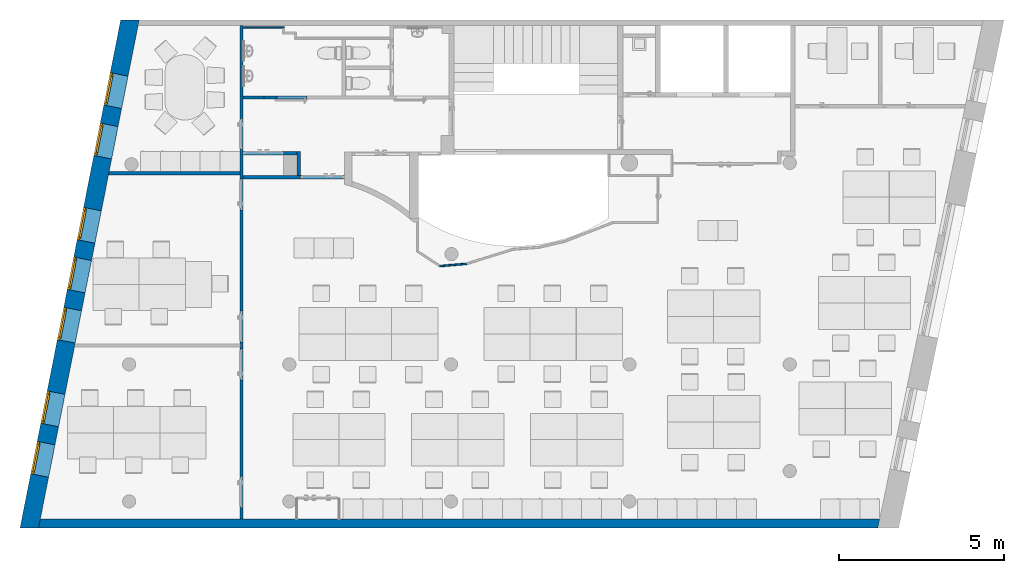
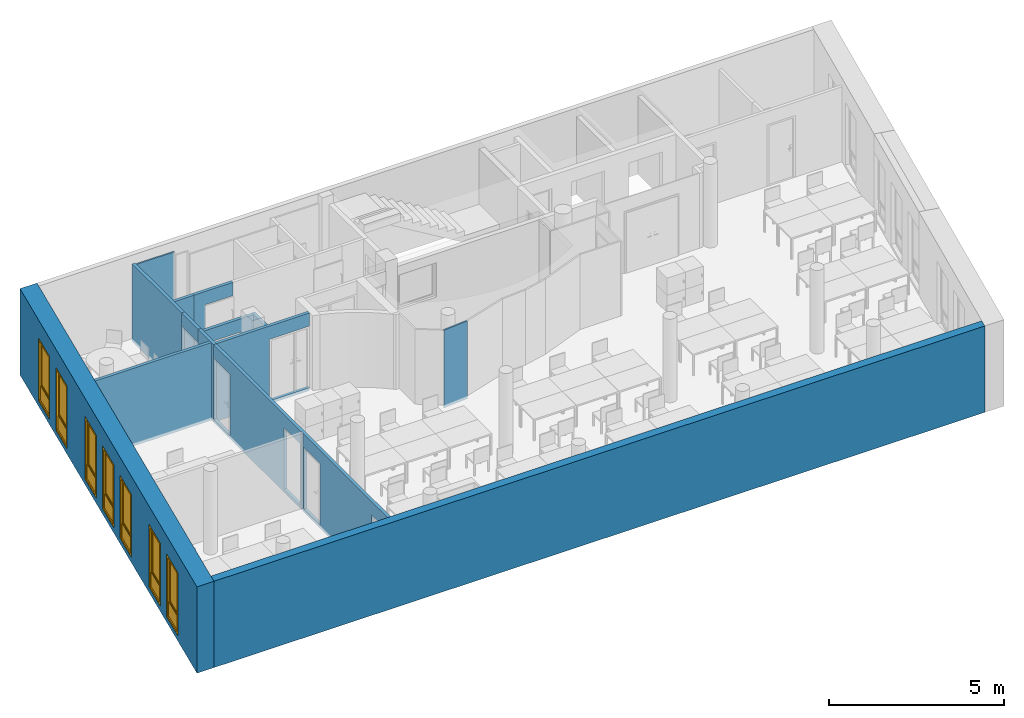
"""IFC4 building model written with IfcOpenShell, lengths in metres."""

from ifc_helpers import new_model, entity, si_unit, converted_unit, derived_unit, frame, frame_2d, origin, origin_with_axes, place, context, subcontext, project, spatial, polyline, rectangle, outline, extrude, closed_shell, open_shell, surface_model, source, transform, mapped, material, layer, layer_set, layer_usage, type_object, element, fill, save


model = new_model("IFC4")

# Units and contexts
model_context = context("Model", 3, precision=1e-05, world=origin())
body_context = subcontext(model_context, "Body", "Model", "MODEL_VIEW")
ifc_project = project(units=[si_unit("LENGTHUNIT", "METRE"), si_unit("AREAUNIT", "SQUARE_METRE"), si_unit("VOLUMEUNIT", "CUBIC_METRE"), si_unit("MASSUNIT", "GRAM", prefix="KILO"), converted_unit("PLANEANGLEUNIT", "DEGREE", entity("IfcPlaneAngleMeasure", 0.0174532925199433), si_unit("PLANEANGLEUNIT", "RADIAN"), dimensions=[0, 0, 0, 0, 0, 0, 0]), derived_unit("THERMALTRANSMITTANCEUNIT", [(si_unit("POWERUNIT", "WATT"), 1), (si_unit("THERMODYNAMICTEMPERATUREUNIT", "KELVIN"), -1), (si_unit("LENGTHUNIT", "METRE"), -2)]), derived_unit("VOLUMETRICFLOWRATEUNIT", [(si_unit("LENGTHUNIT", "METRE"), 3), (converted_unit("TIMEUNIT", "hour", entity("IfcTimeMeasure", 3600.0), si_unit("TIMEUNIT", "SECOND"), dimensions=[0, 0, 1, 0, 0, 0, 0]), -1), (si_unit("LENGTHUNIT", "METRE"), -1)])], contexts=[model_context])

# Building, storeys
building_placement = place(None, origin())
building = spatial("IfcBuilding", under=ifc_project, at=building_placement, Name="HABITATGE PLURIFAMILIAR", CompositionType="ELEMENT")
storey_1_placement = place(building_placement, frame((0.0, 0.0, 18.29)))
storey_1 = spatial("IfcBuildingStorey", under=building, at=storey_1_placement, Name="PLANTA CINQUENA", CompositionType="ELEMENT", Elevation=18.29)
storey_2_placement = place(storey_1_placement, frame((0.0, 0.0, 15.28)))
storey_2 = spatial("IfcBuildingStorey", under=storey_1, at=storey_2_placement, Name="NOU", CompositionType="PARTIAL")

# Wall
ifc_material_1 = material()
ifc_layer_1 = layer(ifc_material_1, 0.100000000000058)
ifc_layer_set_1 = layer_set([ifc_layer_1])
ifc_layer_usage_1 = layer_usage(ifc_layer_set_1, "AXIS2", "POSITIVE", 0.0)
wall_1_placement = place(storey_2_placement, frame((406.176984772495, 23.5194598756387, -15.38), z_axis=(0.0, 0.0, 1.0), x_axis=(0.0, 1.0, 0.0)))
element("IfcWall", 1, at=wall_1_placement, inside=storey_2, material=ifc_layer_usage_1, Name="Evans P5", context=body_context, shape_type="SweptSolid", body=[
    extrude(rectangle(XDim=0.724999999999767, YDim=0.100000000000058, at=frame_2d((0.362499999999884, 0.0500000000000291), x_axis=(1.0, 0.0))), origin_with_axes(), (0.0, 0.0, 1.0), 2.71),
])

# Wall, opening
ifc_material_2 = material()
ifc_layer_2 = layer(ifc_material_2, 0.1)
ifc_layer_set_2 = layer_set([ifc_layer_2])
ifc_layer_usage_2 = layer_usage(ifc_layer_set_2, "AXIS2", "POSITIVE", 0.0)
wall_2_placement = place(storey_2_placement, frame((404.436984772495, 23.4194598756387, -15.38)))
wall_2 = element("IfcWall", 2, at=wall_2_placement, inside=storey_2, material=ifc_layer_usage_2, Name="Evans P5", context=body_context, shape_type="SweptSolid", body=[
    extrude(rectangle(XDim=3.07, YDim=0.1, at=frame_2d((1.535, 0.05), x_axis=(1.0, 0.0))), origin_with_axes(), (0.0, 0.0, 1.0), 2.71),
])
opening_1_placement = place(wall_2_placement, frame((1.74, 0.0, 0.1), z_axis=(0.0, 1.0, 0.0), x_axis=(0.0, 0.0, 1.0)))
element("IfcOpeningElement", 3, at=opening_1_placement, cuts=wall_2, Name="Vano porta P5", ObjectType="Opening", context=body_context, shape_type="SweptSolid", body=[
    extrude(outline(polyline([(2.15, 1.33), (2.15, 0.0), (0.0, 0.0), (0.0, 1.33), (2.15, 1.33)])), origin_with_axes(), (0.0, 0.0, 1.0), 0.1),
])

ifc_material_3 = material()
ifc_layer_3 = layer(ifc_material_3, 0.1)
ifc_layer_set_3 = layer_set([ifc_layer_3])
ifc_layer_usage_3 = layer_usage(ifc_layer_set_3, "AXIS2", "POSITIVE", 0.0)
wall_3_placement = place(storey_2_placement, frame((406.076984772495, 24.2444598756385, -15.38), z_axis=(0.0, 0.0, 1.0), x_axis=(-1.0, 0.0, 0.0)))
wall_3 = element("IfcWall", 4, at=wall_3_placement, inside=storey_2, material=ifc_layer_usage_3, Name="Evans P5", context=body_context, shape_type="SweptSolid", body=[
    extrude(rectangle(XDim=1.63999999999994, YDim=0.1, at=frame_2d((0.819999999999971, 0.05), x_axis=(1.0, 0.0))), origin_with_axes(), (0.0, 0.0, 1.0), 2.71),
])
opening_2_placement = place(wall_3_placement, frame((1.63999999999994, 0.1, 0.1), z_axis=(0.0, -1.0, 0.0), x_axis=(0.0, 0.0, 1.0)))
element("IfcOpeningElement", 5, at=opening_2_placement, cuts=wall_3, Name="Vano porta P5", ObjectType="Opening", context=body_context, shape_type="SweptSolid", body=[
    extrude(outline(polyline([(2.15, 1.23), (2.15, 0.0), (0.0, 0.0), (0.0, 1.23), (2.15, 1.23)])), origin_with_axes(), (0.0, 0.0, 1.0), 0.1),
])

# Walls
ifc_material_4 = material()
ifc_layer_4 = layer(ifc_material_4, 0.05)
ifc_layer_set_4 = layer_set([ifc_layer_4])
ifc_layer_usage_4 = layer_usage(ifc_layer_set_4, "AXIS2", "POSITIVE", 0.0)
wall_4_placement = place(storey_2_placement, frame((404.436984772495, 27.9794598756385, -15.38)))
element("IfcWall", 6, at=wall_4_placement, inside=storey_2, material=ifc_layer_usage_4, Name="Evans P5", context=body_context, shape_type="SweptSolid", body=[
    extrude(rectangle(XDim=1.25, YDim=0.05, at=frame_2d((0.625, 0.025), x_axis=(1.0, 0.0))), origin_with_axes(), (0.0, 0.0, 1.0), 2.71),
])
ifc_material_5 = material()
ifc_layer_5 = layer(ifc_material_5, 0.1)
ifc_layer_set_5 = layer_set([ifc_layer_5])
ifc_layer_usage_5 = layer_usage(ifc_layer_set_5, "AXIS2", "POSITIVE", 0.0)
wall_5_placement = place(storey_2_placement, frame((404.436984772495, 25.8294598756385, -15.38)))
element("IfcWall", 7, at=wall_5_placement, inside=storey_2, material=ifc_layer_usage_5, Name="Evans P5", context=body_context, shape_type="SweptSolid", body=[
    extrude(rectangle(XDim=0.64, YDim=0.1, at=frame_2d((0.32, 0.05), x_axis=(1.0, 0.0))), origin_with_axes(), (0.0, 0.0, 1.0), 2.71),
])
ifc_material_6 = material()
ifc_layer_6 = layer(ifc_material_6, 0.0499999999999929)
ifc_layer_set_6 = layer_set([ifc_layer_6])
ifc_layer_usage_6 = layer_usage(ifc_layer_set_6, "AXIS2", "POSITIVE", 0.0)
wall_6_placement = place(storey_2_placement, frame((410.386395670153, 20.7494598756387, -15.38), z_axis=(0.0, 0.0, 1.0), x_axis=(0.996349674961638, 0.0853658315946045, 0.0)))
element("IfcWall", 8, at=wall_6_placement, inside=storey_2, material=ifc_layer_usage_6, Name="Mampara P5", context=body_context, shape_type="SweptSolid", body=[
    extrude(outline(polyline([(0.0, 0.0), (0.820006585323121, 0.0), (0.821109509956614, 0.000245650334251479), (0.821109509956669, 0.0499999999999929), (0.0175191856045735, 0.0500000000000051), (0.0, 0.0)])), origin_with_axes(), (0.0, 0.0, 1.0), 2.71),
])

# Wall, openings, doors
ifc_material_7 = material()
ifc_layer_7 = layer(ifc_material_7, 0.549990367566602)
ifc_layer_set_7 = layer_set([ifc_layer_7])
ifc_layer_usage_7 = layer_usage(ifc_layer_set_7, "AXIS2", "POSITIVE", 0.0)
wall_7_placement = place(storey_2_placement, frame((400.729735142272, 28.22824790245, -15.38), z_axis=(0.0, 0.0, 1.0), x_axis=(-0.194347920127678, -0.98093266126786, 0.0)))
wall_7 = element("IfcWall", 9, at=wall_7_placement, inside=storey_2, material=ifc_layer_usage_7, Name="Façana nord-oest P5", context=body_context, shape_type="SweptSolid", body=[
    extrude(outline(polyline([(-15.6867401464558, 0.0), (0.0, 0.0), (-0.108967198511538, 0.549990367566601), (-15.7957092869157, 0.550000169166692), (-15.6867401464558, 0.0)])), frame((15.6867401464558, 0.0, 0.0), z_axis=(0.0, 0.0, 1.0), x_axis=(1.0, 0.0, 0.0)), (0.0, 0.0, 1.0), 3.01),
])
opening_3_placement = place(wall_7_placement, frame((8.86645192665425, 0.0, 0.19), z_axis=(-1.32291446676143e-14, 1.0, 0.0), x_axis=(0.0, 0.0, 1.0)))
opening_3 = element("IfcOpeningElement", 10, at=opening_3_placement, cuts=wall_7, Name="Vano finestra P5", ObjectType="Opening", context=body_context, shape_type="SweptSolid", body=[
    extrude(outline(polyline([(2.19, 1.00000030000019), (2.19, 0.0), (0.0, 0.0), (0.0, 1.00000030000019), (2.19, 1.00000030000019)])), origin_with_axes(), (0.0, 0.0, 1.0), 0.549994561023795),
])
opening_4_placement = place(wall_7_placement, frame((7.31645192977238, 0.0, 0.19), z_axis=(3.96873641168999e-14, 1.0, 0.0), x_axis=(0.0, 0.0, 1.0)))
opening_4 = element("IfcOpeningElement", 11, at=opening_4_placement, cuts=wall_7, Name="Vano finestra P5", ObjectType="Opening", context=body_context, shape_type="SweptSolid", body=[
    extrude(outline(polyline([(2.19, 1.00000030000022), (2.19, 0.0), (0.0, 0.0), (0.0, 1.00000030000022), (2.19, 1.00000030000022)])), origin_with_axes(), (0.0, 0.0, 1.0), 0.549995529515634),
])
opening_5_placement = place(wall_7_placement, frame((11.4489828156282, 0.0, 0.19), z_axis=(-3.30729587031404e-15, 1.0, 0.0), x_axis=(0.0, 0.0, 1.0)))
opening_5 = element("IfcOpeningElement", 12, at=opening_5_placement, cuts=wall_7, Name="Vano finestra P5", ObjectType="Opening", context=body_context, shape_type="SweptSolid", body=[
    extrude(outline(polyline([(2.19, 1.0000003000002), (2.19, 0.0), (0.0, 0.0), (0.0, 1.0000003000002), (2.19, 1.0000003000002)])), origin_with_axes(), (0.0, 0.0, 1.0), 0.549992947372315),
])
opening_6_placement = place(wall_7_placement, frame((13.0068423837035, 0.0, 0.19), z_axis=(3.63803189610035e-14, 1.0, 0.0), x_axis=(0.0, 0.0, 1.0)))
opening_6 = element("IfcOpeningElement", 13, at=opening_6_placement, cuts=wall_7, Name="Vano finestra P5", ObjectType="Opening", context=body_context, shape_type="SweptSolid", body=[
    extrude(outline(polyline([(2.19, 1.0000003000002), (2.19, 0.0), (0.0, 0.0), (0.0, 1.0000003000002), (2.19, 1.0000003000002)])), origin_with_axes(), (0.0, 0.0, 1.0), 0.549991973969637),
])
opening_7_placement = place(wall_7_placement, frame((3.18033439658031, 0.0, 0.19), z_axis=(-2.48044860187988e-15, 1.0, 0.0), x_axis=(0.0, 0.0, 1.0)))
opening_7 = element("IfcOpeningElement", 14, at=opening_7_placement, cuts=wall_7, Name="Vano finestra P5", ObjectType="Opening", context=body_context, shape_type="SweptSolid", body=[
    extrude(outline(polyline([(2.19, 1.00000030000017), (2.19, 0.0), (0.0, 0.0), (0.0, 1.00000030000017), (2.19, 1.00000030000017)])), origin_with_axes(), (0.0, 0.0, 1.0), 0.549998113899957),
])
opening_8_placement = place(wall_7_placement, frame((1.62550322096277, 0.0, 0.19), z_axis=(2.60446643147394e-14, 1.0, 0.0), x_axis=(0.0, 0.0, 1.0)))
opening_8 = element("IfcOpeningElement", 15, at=opening_8_placement, cuts=wall_7, Name="Vano finestra P5", ObjectType="Opening", context=body_context, shape_type="SweptSolid", body=[
    extrude(outline(polyline([(2.19, 1.0000000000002), (2.19, 0.0), (0.0, 0.0), (0.0, 1.0000000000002), (2.19, 1.0000000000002)])), origin_with_axes(), (0.0, 0.0, 1.0), 0.549999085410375),
])
opening_9_placement = place(wall_7_placement, frame((5.78205524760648, 0.0, 0.19), z_axis=(-2.81118339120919e-14, 1.0, 0.0), x_axis=(0.0, 0.0, 1.0)))
opening_9 = element("IfcOpeningElement", 16, at=opening_9_placement, cuts=wall_7, Name="Vano finestra P5", ObjectType="Opening", context=body_context, shape_type="SweptSolid", body=[
    extrude(outline(polyline([(2.19, 1.00000030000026), (2.19, 0.0), (0.0, 0.0), (0.0, 1.00000030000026), (2.19, 1.00000030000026)])), origin_with_axes(), (0.0, 0.0, 1.0), 0.549996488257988),
])
door_type_1 = type_object("IfcDoorType", Name="Finestra P5", OperationType="NOTDEFINED", ParameterTakesPrecedence=False, PredefinedType="DOOR")
shared_shape = source(origin_with_axes(), body_context, "Body", "SurfaceModel", [
    surface_model("IfcShellBasedSurfaceModel", [(0.0, 0.0700000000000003, 2.19), (0.0, 0.07, 0.0), (0.07, 0.07, 0.0), (0.07, 0.0700000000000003, 2.19), (0.0, 0.0, 0.0), (0.0, 0.0, 2.19), (0.07, 0.0, 2.19), (0.07, 0.0, 0.0)], [closed_shell([[[0, 1, 2, 3]], [[4, 5, 6, 7]], [[1, 0, 5, 4]], [[2, 1, 4, 7]], [[3, 2, 7, 6]], [[0, 3, 6, 5]]], orient=[[False], [False], [False], [False], [False], [False]])]),
    surface_model("IfcShellBasedSurfaceModel", [(0.930000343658, 0.0700000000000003, 2.19), (0.930000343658, 0.07, 0.0), (1.000000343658, 0.07, 0.0), (1.000000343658, 0.0700000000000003, 2.19), (0.930000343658, 0.0, 0.0), (0.930000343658, 0.0, 2.19), (1.000000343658, 0.0, 2.19), (1.000000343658, 0.0, 0.0)], [closed_shell([[[0, 1, 2, 3]], [[4, 5, 6, 7]], [[1, 0, 5, 4]], [[2, 1, 4, 7]], [[3, 2, 7, 6]], [[0, 3, 6, 5]]], orient=[[False], [False], [False], [False], [False], [False]])]),
    surface_model("IfcShellBasedSurfaceModel", [(0.07, 0.07, 0.07), (0.07, 0.07, 0.0), (0.930000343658, 0.07, 0.0), (0.930000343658, 0.07, 0.07), (0.07, 0.0, 0.0), (0.07, 0.0, 0.07), (0.930000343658, 0.0, 0.07), (0.930000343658, 0.0, 0.0)], [closed_shell([[[0, 1, 2, 3]], [[4, 5, 6, 7]], [[1, 0, 5, 4]], [[2, 1, 4, 7]], [[3, 2, 7, 6]], [[0, 3, 6, 5]]], orient=[[False], [False], [False], [False], [False], [False]])]),
    surface_model("IfcShellBasedSurfaceModel", [(0.07, 0.0700000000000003, 2.19), (0.07, 0.0700000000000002, 2.12), (0.930000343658, 0.0700000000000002, 2.12), (0.930000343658, 0.0700000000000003, 2.19), (0.07, 0.0, 2.12), (0.07, 0.0, 2.19), (0.930000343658, 0.0, 2.19), (0.930000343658, 0.0, 2.12)], [closed_shell([[[0, 1, 2, 3]], [[4, 5, 6, 7]], [[1, 0, 5, 4]], [[2, 1, 4, 7]], [[3, 2, 7, 6]], [[0, 3, 6, 5]]], orient=[[False], [False], [False], [False], [False], [False]])]),
    surface_model("IfcShellBasedSurfaceModel", [(0.07, 0.035, 0.07), (0.930000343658, 0.035, 0.07), (0.930000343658, 0.0350000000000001, 0.57), (0.07, 0.0350000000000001, 0.57)], [open_shell([[[0, 1, 2, 3]]], orient=[[False]])]),
    surface_model("IfcShellBasedSurfaceModel", [(0.05, 0.1, 2.14), (0.05, 0.1, 0.551), (0.1, 0.1, 0.551), (0.1, 0.1, 2.14), (0.05, 0.0500000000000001, 0.551), (0.05, 0.0500000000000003, 2.14), (0.1, 0.0500000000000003, 2.14), (0.1, 0.0500000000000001, 0.551)], [closed_shell([[[0, 1, 2, 3]], [[4, 5, 6, 7]], [[1, 0, 5, 4]], [[2, 1, 4, 7]], [[3, 2, 7, 6]], [[0, 3, 6, 5]]], orient=[[False], [False], [False], [False], [False], [False]])]),
    surface_model("IfcShellBasedSurfaceModel", [(0.900000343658, 0.1, 2.14), (0.900000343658, 0.1, 0.551), (0.950000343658, 0.1, 0.551), (0.950000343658, 0.1, 2.14), (0.900000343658, 0.0500000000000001, 0.551), (0.900000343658, 0.0500000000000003, 2.14), (0.950000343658, 0.0500000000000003, 2.14), (0.950000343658, 0.0500000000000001, 0.551)], [closed_shell([[[0, 1, 2, 3]], [[4, 5, 6, 7]], [[1, 0, 5, 4]], [[2, 1, 4, 7]], [[3, 2, 7, 6]], [[0, 3, 6, 5]]], orient=[[False], [False], [False], [False], [False], [False]])]),
    surface_model("IfcShellBasedSurfaceModel", [(0.1, 0.1, 0.601), (0.1, 0.1, 0.551), (0.900000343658, 0.1, 0.551), (0.900000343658, 0.1, 0.601), (0.1, 0.0500000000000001, 0.551), (0.1, 0.0500000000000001, 0.601), (0.900000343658, 0.0500000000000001, 0.601), (0.900000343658, 0.0500000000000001, 0.551)], [closed_shell([[[0, 1, 2, 3]], [[4, 5, 6, 7]], [[1, 0, 5, 4]], [[2, 1, 4, 7]], [[3, 2, 7, 6]], [[0, 3, 6, 5]]], orient=[[False], [False], [False], [False], [False], [False]])]),
    surface_model("IfcShellBasedSurfaceModel", [(0.1, 0.1, 2.14), (0.1, 0.1, 2.09), (0.900000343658, 0.1, 2.09), (0.900000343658, 0.1, 2.14), (0.1, 0.0500000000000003, 2.09), (0.1, 0.0500000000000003, 2.14), (0.900000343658, 0.0500000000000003, 2.14), (0.900000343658, 0.0500000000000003, 2.09)], [closed_shell([[[0, 1, 2, 3]], [[4, 5, 6, 7]], [[1, 0, 5, 4]], [[2, 1, 4, 7]], [[3, 2, 7, 6]], [[0, 3, 6, 5]]], orient=[[False], [False], [False], [False], [False], [False]])]),
    surface_model("IfcShellBasedSurfaceModel", [(0.1, 0.0750000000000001, 0.601), (0.900000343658, 0.0750000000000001, 0.601), (0.900000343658, 0.0750000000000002, 2.09), (0.1, 0.0750000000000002, 2.09)], [open_shell([[[0, 1, 2, 3]]], orient=[[False]])]),
])
door_1_placement = place(opening_3_placement, frame((0.0, 0.0, 0.0), z_axis=(1.0, 0.0, 0.0), x_axis=(0.0, 1.00000000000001, -4.96269692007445e-14)))
door_1 = element("IfcDoor", 17, at=door_1_placement, inside=storey_2, type_object=door_type_1, Name="Finestra P5", OverallHeight=2.19, OverallWidth=1.0, context=body_context, shape_type="MappedRepresentation", body=[
    mapped(shared_shape, transform((0.0, 0.0, 0.0), x_axis=(1.0, 0.0, 0.0), y_axis=(0.0, 1.0, 0.0), z_axis=(0.0, 0.0, 1.0), scale=1.00000000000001)),
])
fill(opening_3, door_1)
door_type_2 = type_object("IfcDoorType", Name="Finestra P5", OperationType="NOTDEFINED", ParameterTakesPrecedence=False, PredefinedType="DOOR")
door_2_placement = place(opening_4_placement, frame((0.0, 0.0, 0.0), z_axis=(1.0, 0.0, 0.0), x_axis=(0.0, 1.00000000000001, 9.0205620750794e-15)))
door_2 = element("IfcDoor", 18, at=door_2_placement, inside=storey_2, type_object=door_type_2, Name="Finestra P5", OverallHeight=2.19, OverallWidth=1.0, context=body_context, shape_type="MappedRepresentation", body=[
    mapped(shared_shape, transform((0.0, 0.0, 0.0), x_axis=(1.0, 0.0, 0.0), y_axis=(0.0, 1.0, 0.0), z_axis=(0.0, 0.0, 1.0), scale=1.00000000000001)),
])
fill(opening_4, door_2)
door_type_3 = type_object("IfcDoorType", Name="Finestra P5", OperationType="NOTDEFINED", ParameterTakesPrecedence=False, PredefinedType="DOOR")
door_3_placement = place(opening_5_placement, frame((0.0, 0.0, 0.0), z_axis=(1.0, 0.0, 0.0), x_axis=(0.0, 1.0, -4.55191440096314e-14)))
door_3 = element("IfcDoor", 19, at=door_3_placement, inside=storey_2, type_object=door_type_3, Name="Finestra P5", OverallHeight=2.19, OverallWidth=1.0, context=body_context, shape_type="MappedRepresentation", body=[
    mapped(shared_shape, transform((0.0, 0.0, 0.0), x_axis=(1.0, 0.0, 0.0), y_axis=(0.0, 1.0, 0.0), z_axis=(0.0, 0.0, 1.0), scale=1.0)),
])
fill(opening_5, door_3)
door_type_4 = type_object("IfcDoorType", Name="Finestra P5", OperationType="NOTDEFINED", ParameterTakesPrecedence=False, PredefinedType="DOOR")
door_4_placement = place(opening_6_placement, frame((0.0, 0.0, 0.0), z_axis=(1.0, 0.0, 0.0), x_axis=(0.0, 1.0, -3.13638004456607e-15)))
door_4 = element("IfcDoor", 20, at=door_4_placement, inside=storey_2, type_object=door_type_4, Name="Finestra P5", OverallHeight=2.19, OverallWidth=1.0, context=body_context, shape_type="MappedRepresentation", body=[
    mapped(shared_shape, transform((0.0, 0.0, 0.0), x_axis=(1.0, 0.0, 0.0), y_axis=(0.0, 1.0, 0.0), z_axis=(0.0, 0.0, 1.0), scale=1.0)),
])
fill(opening_6, door_4)
door_type_5 = type_object("IfcDoorType", Name="Finestra P5", OperationType="NOTDEFINED", ParameterTakesPrecedence=False, PredefinedType="DOOR")
door_5_placement = place(opening_7_placement, frame((0.0, 0.0, 0.0), z_axis=(1.0, 0.0, 0.0), x_axis=(0.0, 1.0, 9.49240686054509e-15)))
door_5 = element("IfcDoor", 21, at=door_5_placement, inside=storey_2, type_object=door_type_5, Name="Finestra P5", OverallHeight=2.19, OverallWidth=1.0, context=body_context, shape_type="MappedRepresentation", body=[
    mapped(shared_shape, transform((0.0, 0.0, 0.0), x_axis=(1.0, 0.0, 0.0), y_axis=(0.0, 1.0, 0.0), z_axis=(0.0, 0.0, 1.0), scale=1.0)),
])
fill(opening_7, door_5)
door_type_6 = type_object("IfcDoorType", Name="Finestra P5", OperationType="NOTDEFINED", ParameterTakesPrecedence=False, PredefinedType="DOOR")
door_6_placement = place(opening_8_placement, frame((0.0, 0.0, 0.0), z_axis=(1.0, 0.0, 0.0), x_axis=(0.0, 0.999999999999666, 1.04916075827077e-14)))
door_6 = element("IfcDoor", 22, at=door_6_placement, inside=storey_2, type_object=door_type_6, Name="Finestra P5", OverallHeight=2.19, OverallWidth=1.0, context=body_context, shape_type="MappedRepresentation", body=[
    mapped(shared_shape, transform((0.0, 0.0, 0.0), x_axis=(1.0, 0.0, 0.0), y_axis=(0.0, 1.0, 0.0), z_axis=(0.0, 0.0, 1.0), scale=0.999999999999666)),
])
fill(opening_8, door_6)
door_type_7 = type_object("IfcDoorType", Name="Finestra P5", OperationType="NOTDEFINED", ParameterTakesPrecedence=False, PredefinedType="DOOR")
door_7_placement = place(opening_9_placement, frame((0.0, 0.0, 0.0), z_axis=(1.0, 0.0, 0.0), x_axis=(0.0, 1.00000000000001, 6.15896222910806e-14)))
door_7 = element("IfcDoor", 23, at=door_7_placement, inside=storey_2, type_object=door_type_7, Name="Finestra P5", OverallHeight=2.19, OverallWidth=1.0, context=body_context, shape_type="MappedRepresentation", body=[
    mapped(shared_shape, transform((0.0, 0.0, 0.0), x_axis=(1.0, 0.0, 0.0), y_axis=(0.0, 1.0, 0.0), z_axis=(0.0, 0.0, 1.0), scale=1.00000000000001)),
])
fill(opening_9, door_7)

# Walls
ifc_material_8 = material()
ifc_layer_8 = layer(ifc_material_8, 0.27)
ifc_layer_set_8 = layer_set([ifc_layer_8])
ifc_layer_usage_8 = layer_usage(ifc_layer_set_8, "AXIS2", "POSITIVE", 0.0)
wall_8_placement = place(storey_2_placement, frame((398.241730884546, 12.8406121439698, -15.38)))
element("IfcWall", 24, at=wall_8_placement, inside=storey_2, material=ifc_layer_usage_8, Name="Mur P5", context=body_context, shape_type="SweptSolid", body=[
    extrude(outline(polyline([(0.0, 0.0), (25.416562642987, 0.0), (25.4724597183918, 0.27), (0.0534941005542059, 0.27), (0.0, 0.0)])), origin_with_axes(), (0.0, 0.0, 1.0), 3.01),
])
ifc_material_9 = material()
ifc_layer_9 = layer(ifc_material_9, 0.1)
ifc_layer_set_9 = layer_set([ifc_layer_9])
ifc_layer_usage_9 = layer_usage(ifc_layer_set_9, "AXIS2", "POSITIVE", 0.0)
wall_9_placement = place(storey_2_placement, frame((404.436984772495, 25.2472207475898, -15.38), z_axis=(0.0, 0.0, 1.0), x_axis=(0.0, 1.0, 0.0)))
element("IfcWall", 25, at=wall_9_placement, inside=storey_2, material=ifc_layer_usage_9, Name="Evans P5", context=body_context, shape_type="SweptSolid", body=[
    extrude(rectangle(XDim=2.82102715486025, YDim=0.1, at=frame_2d((1.41051357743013, 0.05), x_axis=(1.0, 0.0))), origin_with_axes(), (0.0, 0.0, 1.0), 2.71),
])
ifc_material_10 = material()
ifc_layer_10 = layer(ifc_material_10, 0.1)
ifc_layer_set_10 = layer_set([ifc_layer_10])
ifc_layer_usage_10 = layer_usage(ifc_layer_set_10, "AXIS2", "POSITIVE", 0.0)
wall_10_placement = place(storey_2_placement, frame((404.436984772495, 23.4194598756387, -15.38), z_axis=(0.0, 0.0, 1.0), x_axis=(0.0, 1.0, 0.0)))
element("IfcWall", 26, at=wall_10_placement, inside=storey_2, material=ifc_layer_usage_10, Name="Evans P5", context=body_context, shape_type="SweptSolid", body=[
    extrude(rectangle(XDim=0.887760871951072, YDim=0.1, at=frame_2d((0.443880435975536, 0.05), x_axis=(1.0, 0.0))), origin_with_axes(), (0.0, 0.0, 1.0), 2.71),
])

# Wall, openings
ifc_material_11 = material()
ifc_layer_11 = layer(ifc_material_11, 0.1)
ifc_layer_set_11 = layer_set([ifc_layer_11])
ifc_layer_usage_11 = layer_usage(ifc_layer_set_11, "AXIS2", "POSITIVE", 0.0)
wall_11_placement = place(storey_2_placement, frame((404.436984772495, 13.1106121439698, -15.38), z_axis=(0.0, 0.0, 1.0), x_axis=(0.0, 1.0, 0.0)))
wall_11 = element("IfcWall", 27, at=wall_11_placement, inside=storey_2, material=ifc_layer_usage_11, Name="Mampara P5", context=body_context, shape_type="SweptSolid", body=[
    extrude(outline(polyline([(0.0, -0.1), (10.3088477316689, -0.1), (10.3088477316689, 0.0), (5.31089460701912, 0.0), (5.31089460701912, -0.0155478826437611), (5.21089460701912, -0.0155478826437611), (5.21089460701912, 0.0), (0.0, 0.0), (0.0, -0.1)])), frame((0.0, 0.1, 0.0), z_axis=(0.0, 0.0, 1.0), x_axis=(1.0, 0.0, 0.0)), (0.0, 0.0, 1.0), 2.71),
])
opening_10_placement = place(wall_11_placement, frame((9.36884773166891, 0.0, 0.1), z_axis=(0.0, 1.0, 0.0), x_axis=(0.0, 0.0, 1.0)))
element("IfcOpeningElement", 28, at=opening_10_placement, cuts=wall_11, Name="Vano porta P5", ObjectType="Opening", context=body_context, shape_type="SweptSolid", body=[
    extrude(outline(polyline([(2.15, 0.940000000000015), (2.15, 0.0), (0.0, 0.0), (0.0, 0.940000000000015), (2.15, 0.940000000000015)])), origin_with_axes(), (0.0, 0.0, 1.0), 0.1),
])
opening_11_placement = place(wall_11_placement, frame((5.36089460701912, 0.0, 0.1), z_axis=(0.0, 1.0, 0.0), x_axis=(0.0, 0.0, 1.0)))
element("IfcOpeningElement", 29, at=opening_11_placement, cuts=wall_11, Name="Vano porta P5", ObjectType="Opening", context=body_context, shape_type="SweptSolid", body=[
    extrude(outline(polyline([(2.15, 0.94), (2.15, 0.0), (0.0, 0.0), (0.0, 0.94), (2.15, 0.94)])), origin_with_axes(), (0.0, 0.0, 1.0), 0.1),
])
opening_12_placement = place(wall_11_placement, frame((4.22089460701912, 0.0, 0.1), z_axis=(0.0, 1.0, 0.0), x_axis=(0.0, 0.0, 1.0)))
element("IfcOpeningElement", 30, at=opening_12_placement, cuts=wall_11, Name="Vano porta P5", ObjectType="Opening", context=body_context, shape_type="SweptSolid", body=[
    extrude(outline(polyline([(2.15, 0.94), (2.15, 0.0), (0.0, 0.0), (0.0, 0.94), (2.15, 0.94)])), origin_with_axes(), (0.0, 0.0, 1.0), 0.1),
])
opening_13_placement = place(wall_11_placement, frame((0.35, 0.0, 0.1), z_axis=(0.0, 1.0, 0.0), x_axis=(0.0, 0.0, 1.0)))
element("IfcOpeningElement", 31, at=opening_13_placement, cuts=wall_11, Name="Vano porta P5", ObjectType="Opening", context=body_context, shape_type="SweptSolid", body=[
    extrude(outline(polyline([(2.15, 0.94), (2.15, 0.0), (0.0, 0.0), (0.0, 0.94), (2.15, 0.94)])), origin_with_axes(), (0.0, 0.0, 1.0), 0.1),
])

# Wall, opening
ifc_material_12 = material()
ifc_layer_12 = layer(ifc_material_12, 0.1)
ifc_layer_set_12 = layer_set([ifc_layer_12])
ifc_layer_usage_12 = layer_usage(ifc_layer_set_12, "AXIS2", "POSITIVE", 0.0)
wall_12_placement = place(storey_2_placement, frame((405.076984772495, 25.8294598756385, -15.38)))
wall_12 = element("IfcWall", 32, at=wall_12_placement, inside=storey_2, material=ifc_layer_usage_12, Name="Evans P5", context=body_context, shape_type="SweptSolid", body=[
    extrude(rectangle(XDim=1.28889983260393, YDim=0.1, at=frame_2d((0.644449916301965, 0.05), x_axis=(1.0, 0.0))), origin_with_axes(), (0.0, 0.0, 1.0), 2.71),
])
opening_14_placement = place(wall_12_placement, frame((1.28889983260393, 0.1, 0.1), z_axis=(0.0, -1.0, 0.0), x_axis=(0.0, 0.0, 1.0)))
element("IfcOpeningElement", 33, at=opening_14_placement, cuts=wall_12, Name="Vano porta P5", ObjectType="Opening", context=body_context, shape_type="SweptSolid", body=[
    extrude(outline(polyline([(2.15, 0.9), (2.15, 0.0), (0.0, 0.0), (0.0, 0.9), (2.15, 0.9)])), origin_with_axes(), (0.0, 0.0, 1.0), 0.1),
])

# Wall
ifc_material_13 = material()
ifc_layer_13 = layer(ifc_material_13, 0.1)
ifc_layer_set_13 = layer_set([ifc_layer_13])
ifc_layer_usage_13 = layer_usage(ifc_layer_set_13, "AXIS2", "POSITIVE", 0.0)
wall_13_placement = place(storey_2_placement, frame((400.361694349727, 23.5406730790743, -15.38)))
element("IfcWall", 34, at=wall_13_placement, inside=storey_2, material=ifc_layer_usage_13, Name="Evans P5", context=body_context, shape_type="SweptSolid", body=[
    extrude(outline(polyline([(0.0, 0.0), (3.9752904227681, 0.0), (3.9752904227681, 0.1), (0.0198126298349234, 0.1), (0.0, 0.0)])), origin_with_axes(), (0.0, 0.0, 1.0), 2.71),
])

# Wall, opening
ifc_material_14 = material()
ifc_layer_14 = layer(ifc_material_14, 0.1)
ifc_layer_set_14 = layer_set([ifc_layer_14])
ifc_layer_usage_14 = layer_usage(ifc_layer_set_14, "AXIS2", "POSITIVE", 0.0)
wall_14_placement = place(storey_2_placement, frame((404.436984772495, 24.3072207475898, -15.38), z_axis=(0.0, 0.0, 1.0), x_axis=(0.0, 1.0, 0.0)))
wall_14 = element("IfcWall", 35, at=wall_14_placement, inside=storey_2, material=ifc_layer_usage_14, Name="Evans P5", context=body_context, shape_type="SweptSolid", body=[
    extrude(rectangle(XDim=0.94, YDim=0.1, at=frame_2d((0.47, 0.05), x_axis=(1.0, 0.0))), origin_with_axes(), (0.0, 0.0, 1.0), 2.71),
])
opening_15_placement = place(wall_14_placement, frame((0.0, 0.0, 0.1), z_axis=(0.0, 1.0, 0.0), x_axis=(0.0, 0.0, 1.0)))
element("IfcOpeningElement", 36, at=opening_15_placement, cuts=wall_14, Name="Vano puerta", ObjectType="Opening", context=body_context, shape_type="SweptSolid", body=[
    extrude(outline(polyline([(2.15, 0.94), (2.15, 0.0), (0.0, 0.0), (0.0, 0.94), (2.15, 0.94)])), origin_with_axes(), (0.0, 0.0, 1.0), 0.1),
])

save(model, "model.ifc")
